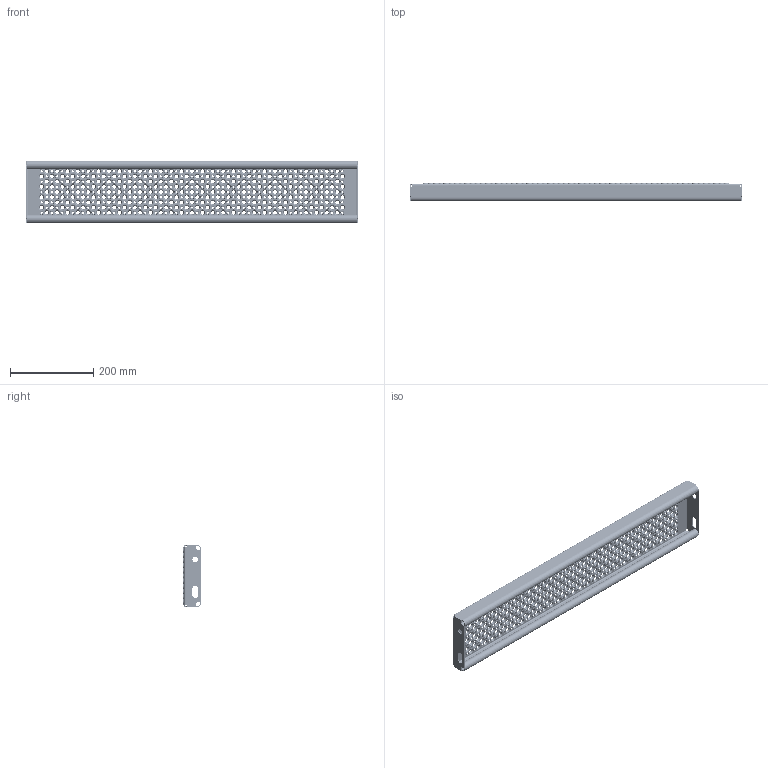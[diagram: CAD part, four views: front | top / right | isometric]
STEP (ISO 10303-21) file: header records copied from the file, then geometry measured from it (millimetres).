
FILE_DESCRIPTION (( 'STEP AP214' ), '1' );
FILE_NAME ('OPTIMO-Tread-Achil-O2-800x150x45x2-st240-F100020100.STEP', '2021-03-15T08:49:30', ( '' ), ( '' ), 'SwSTEP 2.0', 'SolidWorks 2021', '' );
FILE_SCHEMA (( 'AUTOMOTIVE_DESIGN' ));
Products named in the file (1): OPTIMO-Tread-Achil-O2-800x150x45x2-st240-F100020100
Bounding box: 800 x 45 x 150 mm (x, y, z)
Volume: 509261.8 mm3; surface area: 546049.4 mm2
Topology: 1 solids, 1 shells, 6572 faces, 17074 edges, 10504 vertices
Faces by surface type: cone 3894, torus 2596, plane 38, cylinder 36, bspline 8
Entity records: 209296 total; most frequent: DIRECTION 43208, CARTESIAN_POINT 34743, ORIENTED_EDGE 34148, AXIS2_PLACEMENT_3D 19601, EDGE_CURVE 17074, CIRCLE 13036, VERTEX_POINT 10504, EDGE_LOOP 7878
